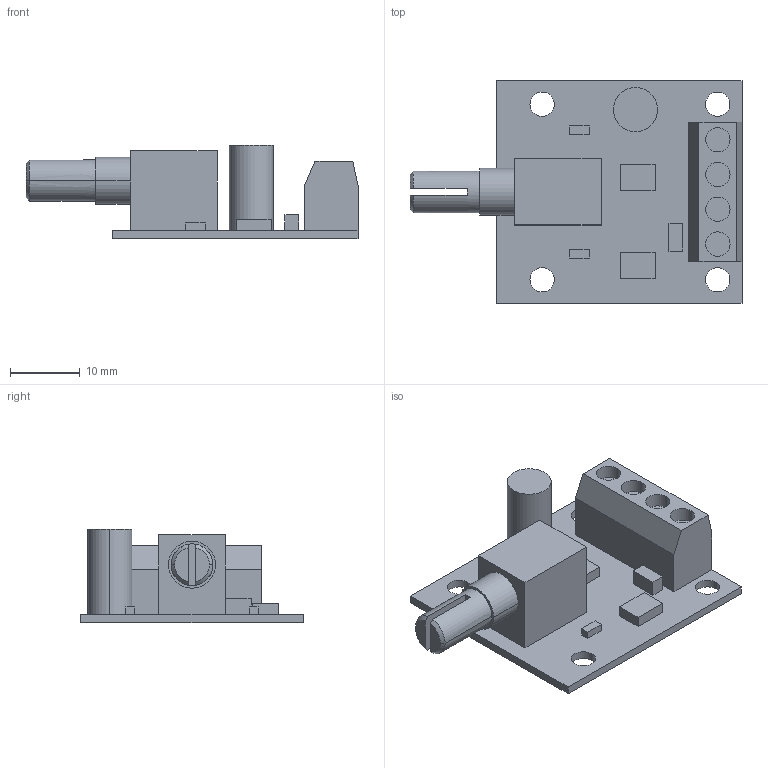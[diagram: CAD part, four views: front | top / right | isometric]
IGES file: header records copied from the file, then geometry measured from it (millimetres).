
Start section: START RECORD GO HERE.
Global section: file name: PWM-Modul_1803BK.igs; native system: IBM CATIA IGES - CATIA Version 5 Release 19 ; preprocessor: CATIA Version 5 Release 19 ; author: Administrator; organization: M0000815; date: 20221220.171524; units: millimetre
Bounding box: 47.75 x 32 x 13.5 mm (x, y, z)
Surface area: 5065.6 mm2 (no closed solid volume)
Topology: 0 solids, 0 shells, 109 faces, 476 edges, 476 vertices
Faces by surface type: plane 83, revolution 26
